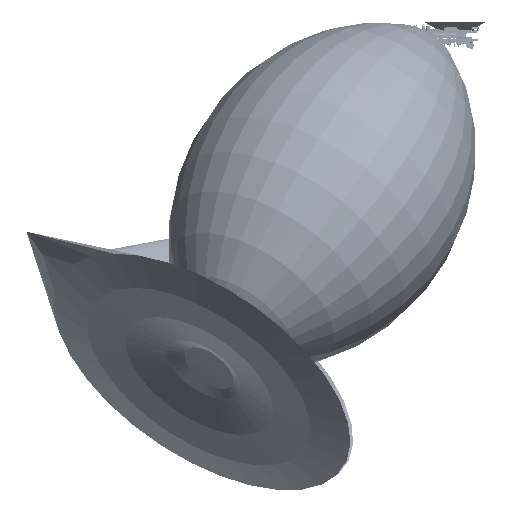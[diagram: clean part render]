
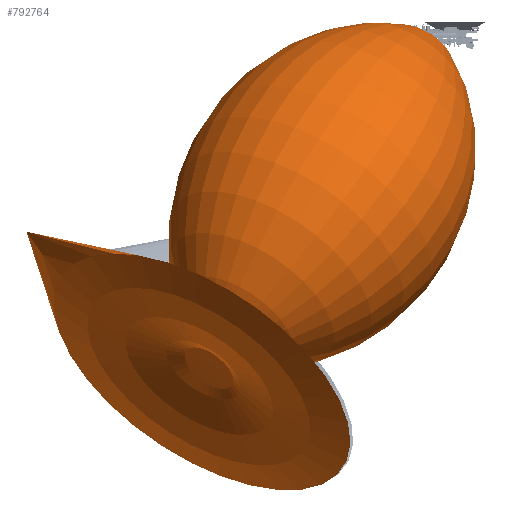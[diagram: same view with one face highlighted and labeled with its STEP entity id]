
A CAD part, front view. The second image highlights one B-rep face of the part: STEP entity #792764.
In plain terms, the highlighted toroidal (fillet/blend) face has major radius 81.21 mm and minor radius 182.394 mm.
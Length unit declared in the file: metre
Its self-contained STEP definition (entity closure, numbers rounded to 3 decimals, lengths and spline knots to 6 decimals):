
#11=VERTEX_LOOP('',#435113);
#16=DEGENERATE_TOROIDAL_SURFACE('',#886199,0.08121,0.182394,
 .T.);
#8515=B_SPLINE_CURVE_WITH_KNOTS('',3,(#1273762,#1273763,#1273764,#1273765),
 .UNSPECIFIED.,.F.,.F.,(4,4),(5.194429,90.),.UNSPECIFIED.);
#8516=B_SPLINE_CURVE_WITH_KNOTS('',3,(#1273768,#1273769,#1273770,#1273771),
 .UNSPECIFIED.,.F.,.F.,(4,4),(0.,89.530357),.UNSPECIFIED.);
#8517=B_SPLINE_CURVE_WITH_KNOTS('',3,(#1273773,#1273774,#1273775,#1273776),
 .UNSPECIFIED.,.F.,.F.,(4,4),(270.,354.805571),.UNSPECIFIED.);
#164168=ORIENTED_EDGE('',*,*,#339500,.T.);
#164169=ORIENTED_EDGE('',*,*,#339499,.T.);
#164170=ORIENTED_EDGE('',*,*,#339501,.T.);
#339499=EDGE_CURVE('',#435112,#435048,#8515,.F.);
#339500=EDGE_CURVE('',#435114,#435112,#8516,.F.);
#339501=EDGE_CURVE('',#435048,#435114,#8517,.F.);
#435048=VERTEX_POINT('',#1273557);
#435112=VERTEX_POINT('',#1273759);
#435113=VERTEX_POINT('',#1273767);
#435114=VERTEX_POINT('',#1273772);
#669584=EDGE_LOOP('',(#164168,#164169,#164170));
#715335=FACE_BOUND('',#11,.T.);
#715336=FACE_BOUND('',#669584,.T.);
#792764=ADVANCED_FACE('',(#715335,#715336),#16,.F.);
#886199=AXIS2_PLACEMENT_3D('',#1273766,#1023338,#1023339);
#1023338=DIRECTION('',(0.491,0.491,0.719));
#1023339=DIRECTION('',(-0.826,0.,0.564));
#1273557=CARTESIAN_POINT('',(0.022552,0.026161,-0.002371));
#1273759=CARTESIAN_POINT('',(0.022502,0.026141,-0.002325));
#1273762=CARTESIAN_POINT('',(0.022552,0.026161,-0.002371));
#1273763=CARTESIAN_POINT('',(0.022527,0.026151,-0.002371));
#1273764=CARTESIAN_POINT('',(0.022504,0.026142,-0.00235));
#1273765=CARTESIAN_POINT('',(0.022502,0.026141,-0.002325));
#1273766=CARTESIAN_POINT('',(-0.057693,-0.054075,-0.119856));
#1273767=CARTESIAN_POINT('',(0.02252,0.026129,-0.002358));
#1273768=CARTESIAN_POINT('',(0.022502,0.026141,-0.002325));
#1273769=CARTESIAN_POINT('',(0.022502,0.026125,-0.002327));
#1273770=CARTESIAN_POINT('',(0.022517,0.026111,-0.002327));
#1273771=CARTESIAN_POINT('',(0.022532,0.026111,-0.002325));
#1273772=CARTESIAN_POINT('',(0.022532,0.026111,-0.002325));
#1273773=CARTESIAN_POINT('',(0.022532,0.026111,-0.002325));
#1273774=CARTESIAN_POINT('',(0.022533,0.026113,-0.00235));
#1273775=CARTESIAN_POINT('',(0.022542,0.026136,-0.002371));
#1273776=CARTESIAN_POINT('',(0.022552,0.026161,-0.002371));
